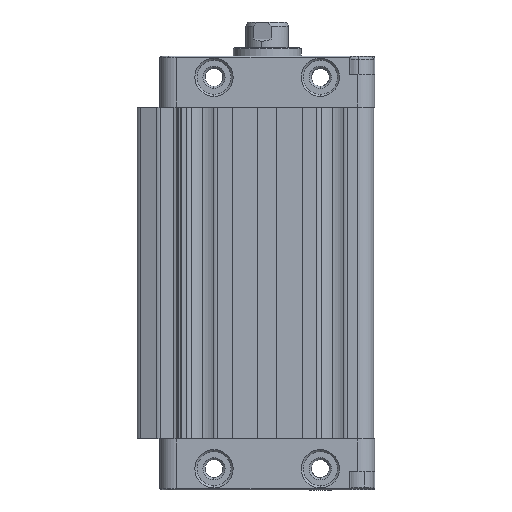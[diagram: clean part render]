
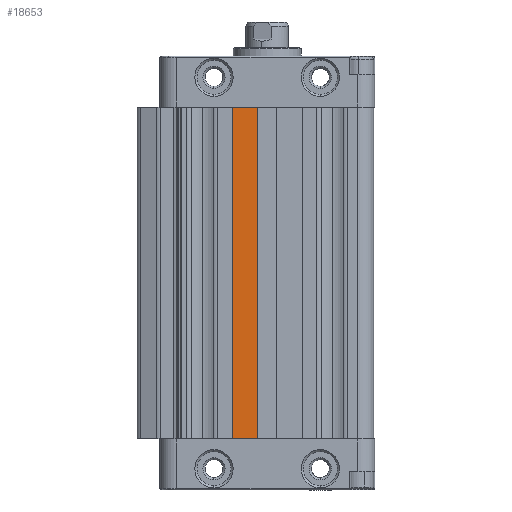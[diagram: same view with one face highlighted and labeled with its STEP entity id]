
A CAD part, left-side view. The second image highlights one B-rep face of the part: STEP entity #18653.
In plain terms, the highlighted planar face has unit normal (-1, 0, 0).
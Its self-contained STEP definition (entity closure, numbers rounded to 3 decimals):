
#321 = VECTOR ( 'NONE', #3234, 1000. ) ;
#1625 = EDGE_CURVE ( 'NONE', #23945, #13721, #3371, .T. ) ;
#1791 = AXIS2_PLACEMENT_3D ( 'NONE', #18086, #24049, #24307 ) ;
#2036 = CARTESIAN_POINT ( 'NONE',  ( -9.45, 8.25, -100. ) ) ;
#2713 = VECTOR ( 'NONE', #18285, 1000. ) ;
#2873 = LINE ( 'NONE', #15497, #321 ) ;
#3140 = CARTESIAN_POINT ( 'NONE',  ( -9.45, 2.75, -12. ) ) ;
#3234 = DIRECTION ( 'NONE',  ( 0., 0., -1. ) ) ;
#3302 = LINE ( 'NONE', #23453, #24432 ) ;
#3371 = LINE ( 'NONE', #2036, #2713 ) ;
#3743 = VECTOR ( 'NONE', #21415, 1000. ) ;
#3948 = EDGE_CURVE ( 'NONE', #16384, #22467, #2873, .T. ) ;
#7845 = CARTESIAN_POINT ( 'NONE',  ( -9.45, 8.25, -90. ) ) ;
#11735 = CARTESIAN_POINT ( 'NONE',  ( -9.45, 8.25, -12. ) ) ;
#11864 = ORIENTED_EDGE ( 'NONE', *, *, #23526, .F. ) ;
#13616 = EDGE_CURVE ( 'NONE', #13721, #16384, #15623, .T. ) ;
#13721 = VERTEX_POINT ( 'NONE', #11735 ) ;
#15497 = CARTESIAN_POINT ( 'NONE',  ( -9.45, 2.25, -100. ) ) ;
#15623 = LINE ( 'NONE', #3140, #3743 ) ;
#16384 = VERTEX_POINT ( 'NONE', #23546 ) ;
#16758 = EDGE_LOOP ( 'NONE', ( #24532, #11864, #19716, #20734 ) ) ;
#18086 = CARTESIAN_POINT ( 'NONE',  ( -9.45, 8.25, -100. ) ) ;
#18285 = DIRECTION ( 'NONE',  ( 0., 0., 1. ) ) ;
#18349 = FACE_OUTER_BOUND ( 'NONE', #16758, .T. ) ;
#18653 = ADVANCED_FACE ( 'NONE', ( #18349 ), #21578, .F. ) ;
#19529 = DIRECTION ( 'NONE',  ( 0., 1., 0. ) ) ;
#19716 = ORIENTED_EDGE ( 'NONE', *, *, #3948, .F. ) ;
#20734 = ORIENTED_EDGE ( 'NONE', *, *, #13616, .F. ) ;
#21415 = DIRECTION ( 'NONE',  ( 0., -1., 0. ) ) ;
#21578 = PLANE ( 'NONE',  #1791 ) ;
#22467 = VERTEX_POINT ( 'NONE', #23927 ) ;
#23453 = CARTESIAN_POINT ( 'NONE',  ( -9.45, 2.25, -90. ) ) ;
#23526 = EDGE_CURVE ( 'NONE', #22467, #23945, #3302, .T. ) ;
#23546 = CARTESIAN_POINT ( 'NONE',  ( -9.45, 2.25, -12. ) ) ;
#23927 = CARTESIAN_POINT ( 'NONE',  ( -9.45, 2.25, -90. ) ) ;
#23945 = VERTEX_POINT ( 'NONE', #7845 ) ;
#24049 = DIRECTION ( 'NONE',  ( 1., 0., 0. ) ) ;
#24307 = DIRECTION ( 'NONE',  ( 0., 0., -1. ) ) ;
#24432 = VECTOR ( 'NONE', #19529, 1000. ) ;
#24532 = ORIENTED_EDGE ( 'NONE', *, *, #1625, .F. ) ;
